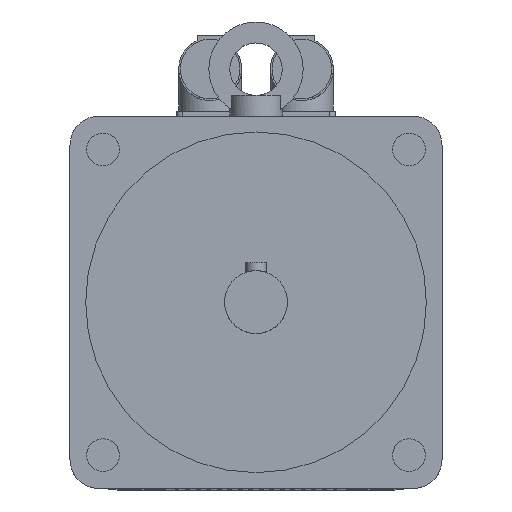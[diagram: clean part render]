
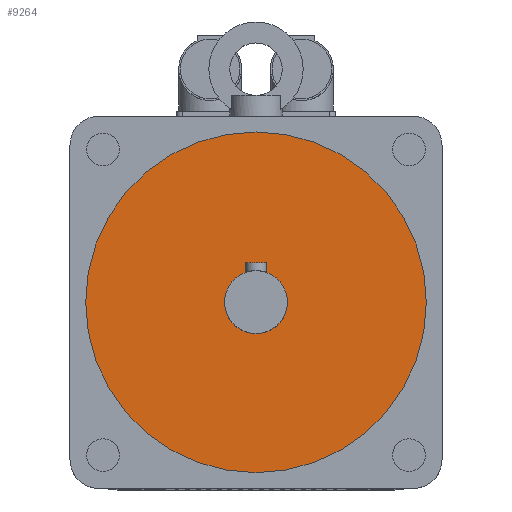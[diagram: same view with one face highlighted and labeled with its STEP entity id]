
A CAD part, top view. The second image highlights one B-rep face of the part: STEP entity #9264.
In plain terms, the highlighted planar face has unit normal (0, 0, 1).
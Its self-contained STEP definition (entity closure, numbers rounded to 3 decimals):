
#107=FACE_BOUND('',#909,.T.);
#283=FACE_OUTER_BOUND('',#908,.T.);
#908=EDGE_LOOP('',(#6623));
#909=EDGE_LOOP('',(#6624));
#1470=CIRCLE('',#9861,12.);
#1471=CIRCLE('',#9863,65.);
#4215=VERTEX_POINT('',#14403);
#4216=VERTEX_POINT('',#14406);
#5156=EDGE_CURVE('',#4215,#4215,#1470,.T.);
#5157=EDGE_CURVE('',#4216,#4216,#1471,.T.);
#6623=ORIENTED_EDGE('',*,*,#5157,.F.);
#6624=ORIENTED_EDGE('',*,*,#5156,.T.);
#8816=PLANE('',#9862);
#9264=ADVANCED_FACE('',(#283,#107),#8816,.T.);
#9861=AXIS2_PLACEMENT_3D('',#14404,#11242,#11243);
#9862=AXIS2_PLACEMENT_3D('',#14405,#11244,#11245);
#9863=AXIS2_PLACEMENT_3D('',#14407,#11246,#11247);
#11242=DIRECTION('center_axis',(0.,0.,-1.));
#11243=DIRECTION('ref_axis',(1.,0.,0.));
#11244=DIRECTION('center_axis',(0.,0.,1.));
#11245=DIRECTION('ref_axis',(1.,0.,0.));
#11246=DIRECTION('center_axis',(0.,0.,-1.));
#11247=DIRECTION('ref_axis',(1.,0.,0.));
#14403=CARTESIAN_POINT('',(0.,12.,317.));
#14404=CARTESIAN_POINT('Origin',(0.,0.,317.));
#14405=CARTESIAN_POINT('Origin',(0.,65.,317.));
#14406=CARTESIAN_POINT('',(0.,65.,317.));
#14407=CARTESIAN_POINT('Origin',(0.,0.,317.));
